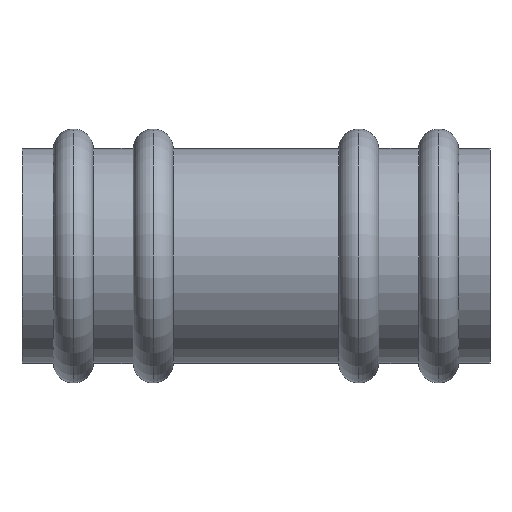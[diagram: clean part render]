
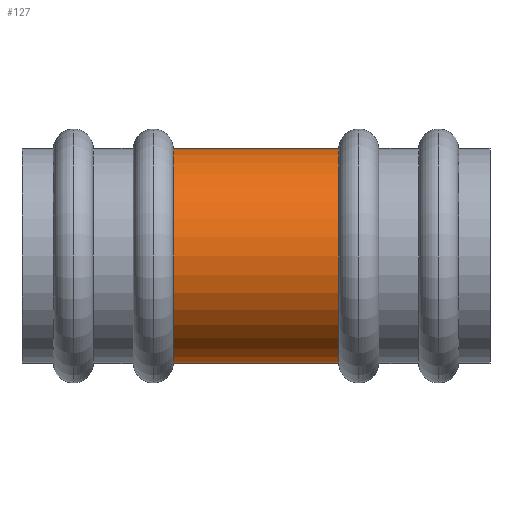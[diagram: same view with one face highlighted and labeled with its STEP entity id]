
A CAD part, front view. The second image highlights one B-rep face of the part: STEP entity #127.
In plain terms, the highlighted cylindrical face has radius 18.85 mm (diameter 37.7 mm), a partial arc.
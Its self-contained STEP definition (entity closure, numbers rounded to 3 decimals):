
#127=ADVANCED_FACE('',(#301),#302,.T.);
#301=FACE_OUTER_BOUND('',#537,.T.);
#302=CYLINDRICAL_SURFACE('',#538,18.85);
#537=EDGE_LOOP('',(#847,#848,#849,#850));
#538=AXIS2_PLACEMENT_3D('',#851,#852,#853);
#847=ORIENTED_EDGE('',*,*,#1344,.F.);
#848=ORIENTED_EDGE('',*,*,#1345,.F.);
#849=ORIENTED_EDGE('',*,*,#1346,.F.);
#850=ORIENTED_EDGE('',*,*,#1347,.F.);
#851=CARTESIAN_POINT('',(41.,0.0,0.0));
#852=DIRECTION('',(-1.0,0.0,0.0));
#853=DIRECTION('',(0.0,0.0,-1.0));
#1344=EDGE_CURVE('',#1587,#1588,#1589,.T.);
#1345=EDGE_CURVE('',#1590,#1587,#1591,.T.);
#1346=EDGE_CURVE('',#1592,#1590,#1593,.T.);
#1347=EDGE_CURVE('',#1588,#1592,#1594,.T.);
#1587=VERTEX_POINT('',#1886);
#1588=VERTEX_POINT('',#1887);
#1589=LINE('',#1888,#1889);
#1590=VERTEX_POINT('',#1890);
#1591=CIRCLE('',#1891,18.85);
#1592=VERTEX_POINT('',#1892);
#1593=LINE('',#1893,#1894);
#1594=CIRCLE('',#1895,18.85);
#1886=CARTESIAN_POINT('',(55.5,0.,-18.85));
#1887=CARTESIAN_POINT('',(26.5,0.,-18.85));
#1888=CARTESIAN_POINT('',(41.,0.,-18.85));
#1889=VECTOR('',#2252,1.0);
#1890=CARTESIAN_POINT('',(55.5,0.,18.85));
#1891=AXIS2_PLACEMENT_3D('',#2253,#2254,#2255);
#1892=CARTESIAN_POINT('',(26.5,0.,18.85));
#1893=CARTESIAN_POINT('',(41.,0.,18.85));
#1894=VECTOR('',#2256,1.0);
#1895=AXIS2_PLACEMENT_3D('',#2257,#2258,#2259);
#2252=DIRECTION('',(-1.0,0.0,0.0));
#2253=CARTESIAN_POINT('',(55.5,0.0,0.));
#2254=DIRECTION('',(1.0,0.0,-0.0));
#2255=DIRECTION('',(0.0,0.0,1.0));
#2256=DIRECTION('',(1.0,-0.0,-0.0));
#2257=CARTESIAN_POINT('',(26.5,0.0,0.));
#2258=DIRECTION('',(-1.0,0.0,0.));
#2259=DIRECTION('',(0.,0.0,-1.0));
